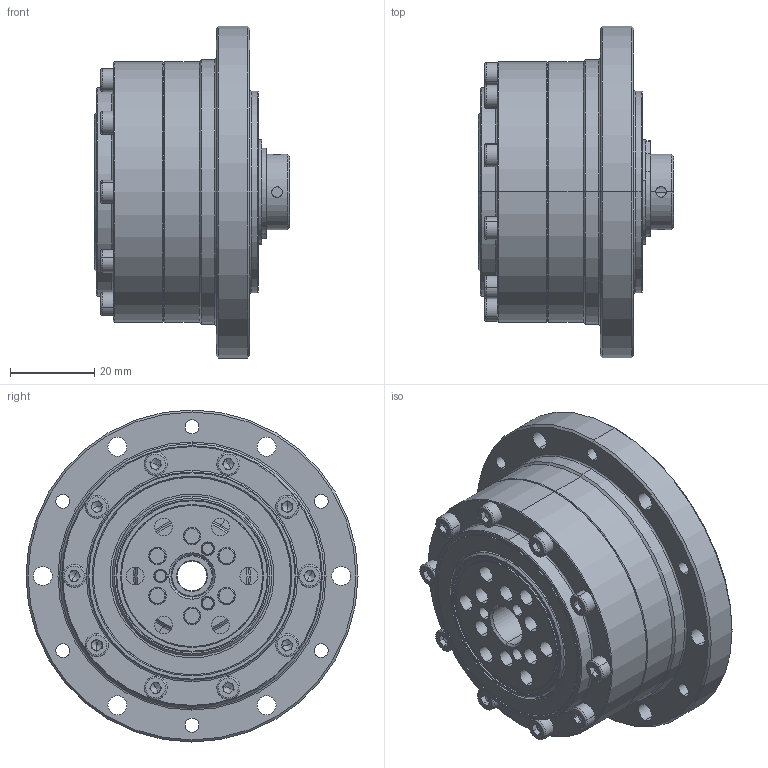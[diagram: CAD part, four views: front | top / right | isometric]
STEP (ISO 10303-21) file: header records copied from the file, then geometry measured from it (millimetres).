
FILE_DESCRIPTION (( 'STEP AP214' ), '1' );
FILE_NAME ('CSF-17-xxx-I.STEP', '2021-07-15T07:57:00', ( 'PC' ), ( 'Microsoft' ), 'SwSTEP 2.0', 'SolidWorks 2016', '' );
FILE_SCHEMA (( 'AUTOMOTIVE_DESIGN' ));
Length unit declared in the file: millimetre
Products named in the file (20): circlips for shaft--type a large gb_GB_CONNECTING_PIECE_RING_RRA 18; STXB-T17-P05_蕼偞; STXB-T17-P03_蕼偞; STXB-T17-P02_蕼偞; STXB-T17-P01_蕼偞; hexagon socket head cap screws gb_GB_FASTENER_SCREWS_HSHCS M4X10-N; hexagon socket head cap screws gb_GB_FASTENER_SCREWS_HSHCS M3X12-C; 17-50柔轮; 17-50詩謫; 17柔轮定位法兰; 3x9种隊; 17-蝠脫粣創; 蝠脫粣創-蚐猾-CSF-17; 蝠脫粣創-幗赽-朴3; 17-交叉轴承内圈; 17-交叉轴承外圈; 17-80疏楷汜ん郪璃_蕼偞; CSF-17-xxx-I; STXB-T17-080-P04_蕼偞; 17柔性轴承
Assembly tree (78 placements, depth 3):
  CSF-17-xxx-I
    17-蝠脫粣創
      17-交叉轴承外圈
      17-交叉轴承内圈
      蝠脫粣創-幗赽-朴3  x44
      蝠脫粣創-蚐猾-CSF-17
    3x9种隊  x3
    17柔轮定位法兰
    17-50詩謫
    17-50柔轮
    hexagon socket head cap screws gb_GB_FASTENER_SCREWS_HSHCS M3X12-C  x10
    hexagon socket head cap screws gb_GB_FASTENER_SCREWS_HSHCS M4X10-N  x6
    17-80疏楷汜ん郪璃_蕼偞
      STXB-T17-P01_蕼偞
      STXB-T17-P02_蕼偞
      STXB-T17-P03_蕼偞
      STXB-T17-P05_蕼偞
      circlips for shaft--type a large gb_GB_CONNECTING_PIECE_RING_RRA 18
      17柔性轴承
      STXB-T17-080-P04_蕼偞
Bounding box: 46.48 x 79 x 79 mm (x, y, z)
Volume: 91201.1 mm3; surface area: 68270.6 mm2
Topology: 76 solids, 76 shells, 2531 faces, 6420 edges, 4057 vertices
Faces by surface type: cylinder 1093, cone 686, plane 648, torus 98, bspline 6
Entity records: 67701 total; most frequent: CARTESIAN_POINT 21623, ORIENTED_EDGE 9944, DIRECTION 8364, EDGE_CURVE 4972, AXIS2_PLACEMENT_3D 3453, VERTEX_POINT 3235, EDGE_LOOP 2007, B_SPLINE_CURVE_WITH_KNOTS 1950
